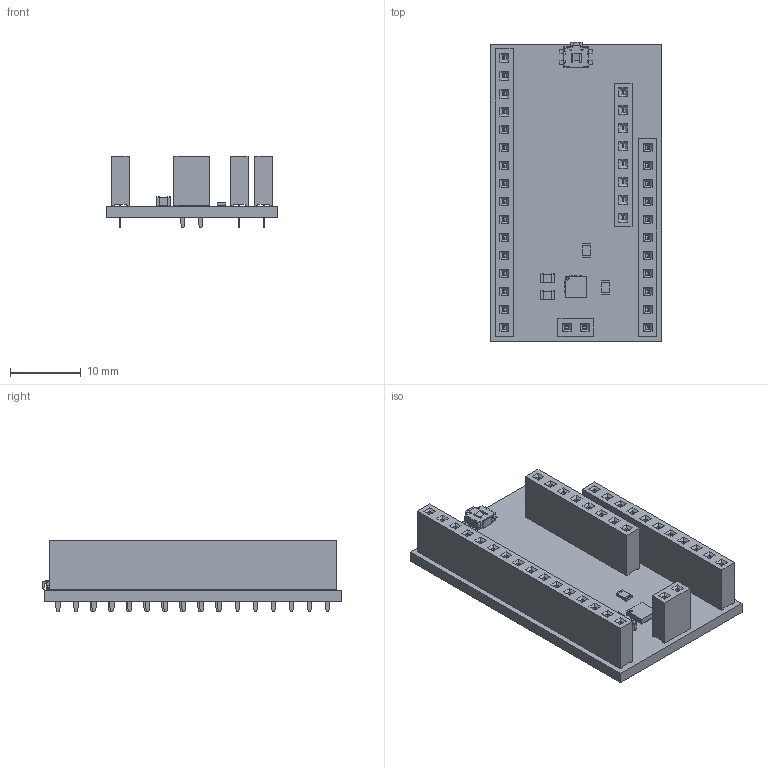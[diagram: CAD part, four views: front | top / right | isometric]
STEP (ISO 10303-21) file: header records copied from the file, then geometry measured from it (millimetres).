
FILE_DESCRIPTION(('KiCad electronic assembly'),'2;1');
FILE_NAME('wireless-wizard-wand.step','2023-08-30T12:53:59',('Pcbnew'),( 'Kicad'),'Open CASCADE STEP processor 7.6','KiCad to STEP converter' ,'Unknown');
FILE_SCHEMA(('AUTOMOTIVE_DESIGN { 1 0 10303 214 1 1 1 1 }'));
Length unit declared in the file: millimetre
Products named in the file (18): wireless-wizard-wand 1; R_0805_2012Metric; SOLID; PinSocket_1x11_P2.54mm_Vertical; PinSocket_1x08_P2.54mm_Vertical; C_0805_2012Metric; EVQ-P7A01P; COMPOUND; PinSocket_1x16_P2.54mm_Vertical; PinSocket_1x02_P2.54mm_Vertical; DA7280-00FVC; wireless-wizard-wand PCB
Assembly tree (19 placements, depth 3):
  wireless-wizard-wand 1
    R_0805_2012Metric  x2
      SOLID
    PinSocket_1x11_P2.54mm_Vertical
      SOLID
    PinSocket_1x08_P2.54mm_Vertical
      SOLID
    C_0805_2012Metric  x2
      SOLID
    EVQ-P7A01P
      COMPOUND
    PinSocket_1x16_P2.54mm_Vertical
      SOLID
    PinSocket_1x02_P2.54mm_Vertical
      SOLID
    DA7280-00FVC
      COMPOUND
    wireless-wizard-wand PCB
Bounding box: 24.3 x 42.38 x 10.1 mm (x, y, z)
Volume: 3170.4 mm3; surface area: 5268.3 mm2
Topology: 28 solids, 28 shells, 1723 faces, 4474 edges, 2926 vertices
Faces by surface type: plane 1632, cylinder 91
Full cylindrical faces by diameter (mm): 0.375 x1, 1 x37
Entity records: 118020 total; most frequent: CARTESIAN_POINT 18401, DIRECTION 16385, LINE 12709, VECTOR 12709, ORIENTED_EDGE 8668, PCURVE 8668, DEFINITIONAL_REPRESENTATION 8668, EDGE_CURVE 4334
